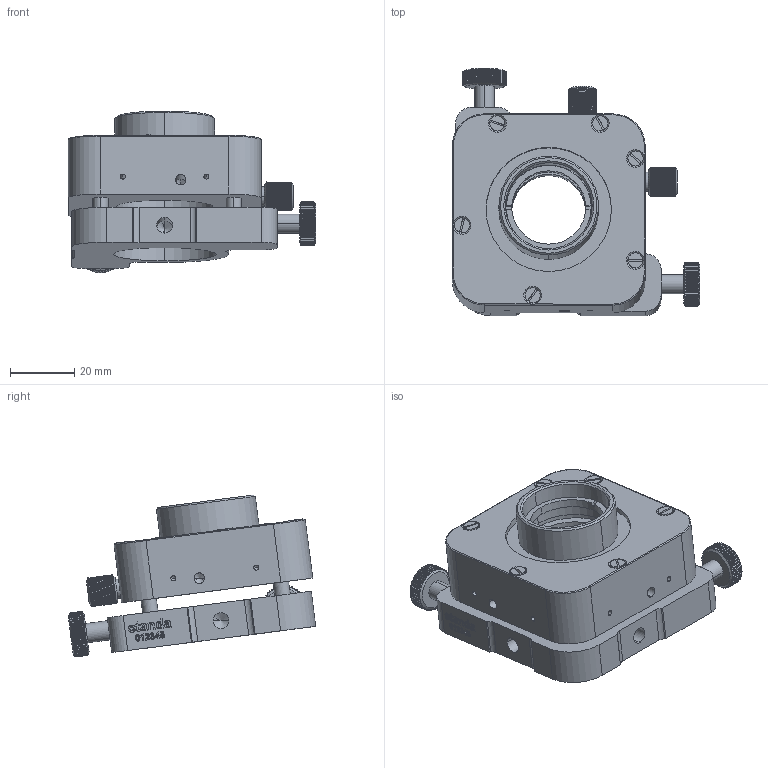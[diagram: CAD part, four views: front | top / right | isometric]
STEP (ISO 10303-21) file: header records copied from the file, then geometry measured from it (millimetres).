
FILE_DESCRIPTION (( 'STEP AP203' ), '1' );
FILE_NAME ('5KOM4-1.STEP', '2011-02-11T08:12:03', ( 'Darius' ), ( '' ), 'SwSTEP 2.0', 'SolidWorks 2003240', '' );
FILE_SCHEMA (( 'CONFIG_CONTROL_DESIGN' ));
Products named in the file (1): 5KOM4-1
Bounding box: 77 x 77.05 x 50.39 mm (x, y, z)
Volume: 76312.7 mm3; surface area: 27942.2 mm2
Topology: 1 solids, 1 shells, 1582 faces, 4468 edges, 2938 vertices
Faces by surface type: plane 672, cylinder 561, bspline 262, cone 87
Entity records: 61886 total; most frequent: CARTESIAN_POINT 25209, ORIENTED_EDGE 8892, DIRECTION 5633, EDGE_CURVE 4446, VERTEX_POINT 2938, B_SPLINE_CURVE_WITH_KNOTS 2002, LINE 1889, VECTOR 1889
